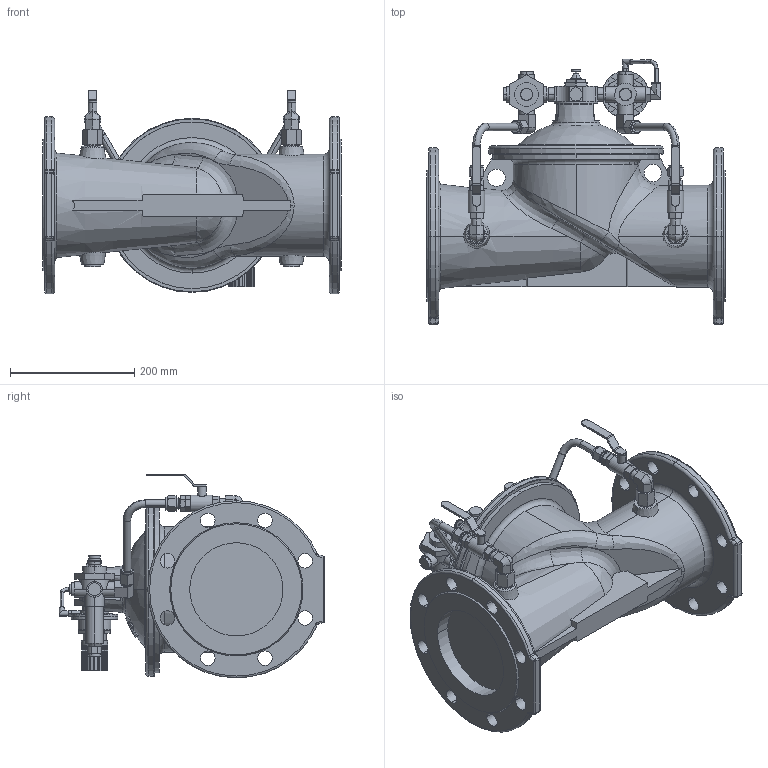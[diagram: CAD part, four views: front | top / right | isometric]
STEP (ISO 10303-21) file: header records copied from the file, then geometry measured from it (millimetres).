
FILE_DESCRIPTION (( 'STEP AP203' ), '1' );
FILE_NAME ('O_859_00_DN150_1XXXX00_REV03.step', '2020-10-15T07:42:51', ( '' ), ( '' ), 'SwSTEP 2.0', 'SolidWorks 2019', '' );
FILE_SCHEMA (( 'CONFIG_CONTROL_DESIGN' ));
Length unit declared in the file: millimetre
Products named in the file (1): O_859_00_DN150_1XXXX00_REV03
Bounding box: 480 x 427.7 x 327.89 mm (x, y, z)
Volume: 14493509.2 mm3; surface area: 784308.7 mm2
Topology: 1 solids, 1 shells, 1082 faces, 2692 edges, 1681 vertices
Faces by surface type: plane 551, cylinder 303, cone 127, torus 69, bspline 22, sphere 10
Entity records: 36591 total; most frequent: CARTESIAN_POINT 10632, DIRECTION 5552, ORIENTED_EDGE 5368, EDGE_CURVE 2684, AXIS2_PLACEMENT_3D 2136, VERTEX_POINT 1681, VECTOR 1280, LINE 1280
